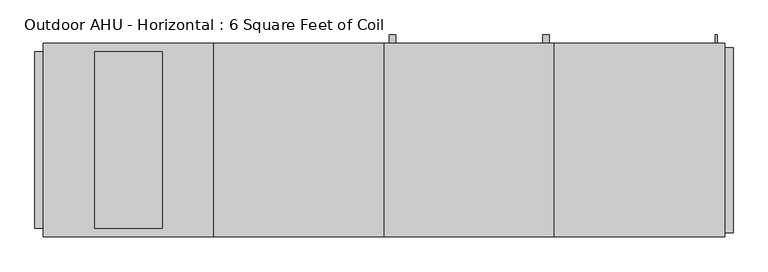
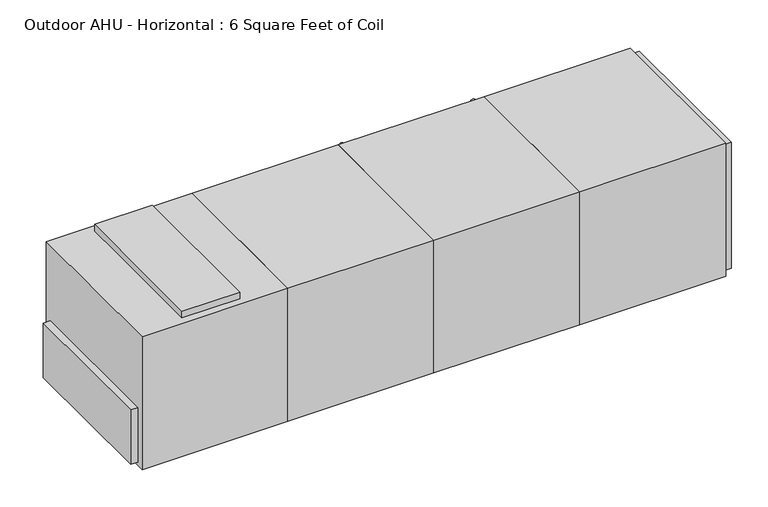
"""IFC4 building model written with IfcOpenShell, lengths in millimetres: proxy geometry, Outdoor AHU - Horizontal : 6 Square Feet of Coil."""

from ifc_helpers import new_model, si_unit, point, frame, frame_2d, origin, origin_with_axes, place, context, project, spatial, polyline, circle_curve, trimmed, segment, composite_curve, outline, extrude, source, transform, mapped, element, save


def outdoor_ahu_horizontal_6_square_feet_of_coil_602b6582(model_context):
    return source(origin(), model_context, "Body", "SweptSolid", [
        extrude(outline(composite_curve([segment(trimmed(circle_curve(frame_2d((50.8, 3035.3)), 15.875), [point((50.8, 3019.425))], [point((50.8, 3051.175))], False, "CARTESIAN"), True, "CONTINUOUS"), segment(trimmed(circle_curve(frame_2d((50.8, 3035.3)), 15.875), [point((50.8, 3051.175))], [point((50.8, 3019.425))], False, "CARTESIAN"), True, "CONTINUOUS")], self_intersect=False)), frame((0.0, 584.2, 0.0), z_axis=(0.0, 1.0, 0.0), x_axis=(0.0, 0.0, 1.0)), (0.0, 0.0, 1.0), 50.8),
        extrude(outline(composite_curve([segment(trimmed(circle_curve(frame_2d((254.0, 4064.0)), 6.35), [point((254.0, 4057.65))], [point((254.0, 4070.35))], False, "CARTESIAN"), True, "CONTINUOUS"), segment(trimmed(circle_curve(frame_2d((254.0, 4064.0)), 6.35), [point((254.0, 4070.35))], [point((254.0, 4057.65))], False, "CARTESIAN"), True, "CONTINUOUS")], self_intersect=False)), frame((0.0, 584.2, 0.0), z_axis=(0.0, 1.0, 0.0), x_axis=(0.0, 0.0, 1.0)), (0.0, 0.0, 1.0), 50.8),
        extrude(outline(composite_curve([segment(trimmed(circle_curve(frame_2d((254.0, 3035.3)), 19.05), [point((254.0, 3016.25))], [point((254.0, 3054.35))], False, "CARTESIAN"), True, "CONTINUOUS"), segment(trimmed(circle_curve(frame_2d((254.0, 3035.3)), 19.05), [point((254.0, 3054.35))], [point((254.0, 3016.25))], False, "CARTESIAN"), True, "CONTINUOUS")], self_intersect=False)), frame((0.0, 584.2, 0.0), z_axis=(0.0, 1.0, 0.0), x_axis=(0.0, 0.0, 1.0)), (0.0, 0.0, 1.0), 50.8),
        extrude(outline(composite_curve([segment(trimmed(circle_curve(frame_2d((254.0, 2108.2)), 19.05), [point((254.0, 2089.15))], [point((254.0, 2127.25))], False, "CARTESIAN"), True, "CONTINUOUS"), segment(trimmed(circle_curve(frame_2d((254.0, 2108.2)), 19.05), [point((254.0, 2127.25))], [point((254.0, 2089.15))], False, "CARTESIAN"), True, "CONTINUOUS")], self_intersect=False)), frame((0.0, 584.2, 0.0), z_axis=(0.0, 1.0, 0.0), x_axis=(0.0, 0.0, 1.0)), (0.0, 0.0, 1.0), 50.8),
        extrude(outline(composite_curve([segment(trimmed(circle_curve(frame_2d((939.8, 2108.2)), 19.05), [point((939.8, 2089.15))], [point((939.8, 2127.25))], False, "CARTESIAN"), True, "CONTINUOUS"), segment(trimmed(circle_curve(frame_2d((939.8, 2108.2)), 19.05), [point((939.8, 2127.25))], [point((939.8, 2089.15))], False, "CARTESIAN"), True, "CONTINUOUS")], self_intersect=False)), frame((0.0, 584.2, 0.0), z_axis=(0.0, 1.0, 0.0), x_axis=(0.0, 0.0, 1.0)), (0.0, 0.0, 1.0), 50.8),
        extrude(outline(composite_curve([segment(trimmed(circle_curve(frame_2d((939.8, 3035.3)), 19.05), [point((939.8, 3016.25))], [point((939.8, 3054.35))], False, "CARTESIAN"), True, "CONTINUOUS"), segment(trimmed(circle_curve(frame_2d((939.8, 3035.3)), 19.05), [point((939.8, 3054.35))], [point((939.8, 3016.25))], False, "CARTESIAN"), True, "CONTINUOUS")], self_intersect=False)), frame((0.0, 584.2, 0.0), z_axis=(0.0, 1.0, 0.0), x_axis=(0.0, 0.0, 1.0)), (0.0, 0.0, 1.0), 50.8),
        extrude(outline(polyline([(4165.6, 558.8), (4165.6, -558.8), (4114.8, -558.8), (4114.8, 558.8), (4165.6, 558.8)])), frame((0.0, 0.0, 25.4), z_axis=(0.0, 0.0, 1.0), x_axis=(1.0, 0.0, 0.0)), (0.0, 0.0, 1.0), 939.8),
        extrude(outline(polyline([(0.0, 533.4), (0.0, -533.4), (-50.8, -533.4), (-50.8, 533.4), (0.0, 533.4)])), frame((0.0, 0.0, 25.4), z_axis=(0.0, 0.0, 1.0), x_axis=(1.0, 0.0, 0.0)), (0.0, 0.0, 1.0), 406.4),
        extrude(outline(polyline([(717.55, 533.4), (717.55, -533.4), (311.15, -533.4), (311.15, 533.4), (717.55, 533.4)])), frame((0.0, 0.0, 990.6), z_axis=(0.0, 0.0, 1.0), x_axis=(1.0, 0.0, 0.0)), (0.0, 0.0, 1.0), 50.8),
        extrude(outline(polyline([(4114.8, 584.2), (4114.8, -584.2), (3086.1, -584.2), (3086.1, 584.2), (4114.8, 584.2)])), origin_with_axes(), (0.0, 0.0, 1.0), 990.6),
        extrude(outline(polyline([(3086.1, 584.2), (3086.1, -584.2), (2057.4, -584.2), (2057.4, 584.2), (3086.1, 584.2)])), origin_with_axes(), (0.0, 0.0, 1.0), 990.6),
        extrude(outline(polyline([(2057.4, 584.2), (2057.4, -584.2), (1028.7, -584.2), (1028.7, 584.2), (2057.4, 584.2)])), origin_with_axes(), (0.0, 0.0, 1.0), 990.6),
        extrude(outline(polyline([(1028.7, 584.2), (1028.7, -584.2), (0.0, -584.2), (0.0, 584.2), (1028.7, 584.2)])), origin_with_axes(), (0.0, 0.0, 1.0), 990.6),
    ])


if __name__ == "__main__":
    model = new_model("IFC4")
    model_context = context("Model", 3, world=origin())
    ifc_project = project(units=[si_unit("LENGTHUNIT", "METRE", prefix="MILLI")], contexts=[model_context])
    site = spatial("IfcSite", under=ifc_project)
    building = spatial("IfcBuilding", under=site)
    placement = place(None, origin())
    outdoor_ahu_horizontal_6_square_feet_of_coil_shape = outdoor_ahu_horizontal_6_square_feet_of_coil_602b6582(model_context)
    element("IfcBuildingElementProxy", 1, Name="Outdoor AHU - Horizontal : 6 Square Feet of Coil", ObjectType="Outdoor AHU - Horizontal : 6 Square Feet of Coil", at=placement, inside=building, context=model_context, shape_type="MappedRepresentation", body=[
        mapped(outdoor_ahu_horizontal_6_square_feet_of_coil_shape, transform((0.0, 0.0, 0.0), x_axis=(1.0, 0.0, 0.0), y_axis=(0.0, 1.0, 0.0), z_axis=(0.0, 0.0, 1.0))),
    ])
    save(model, "model.ifc")
